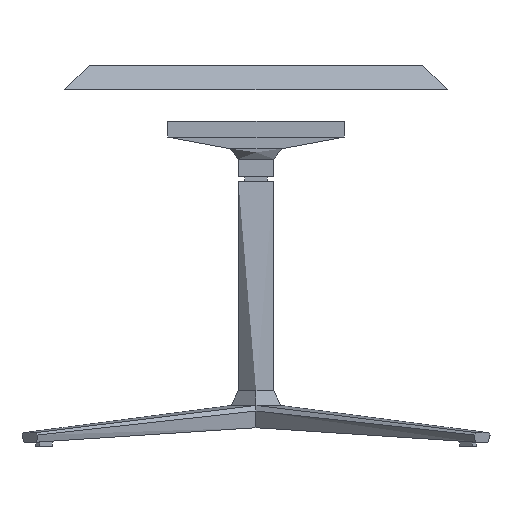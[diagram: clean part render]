
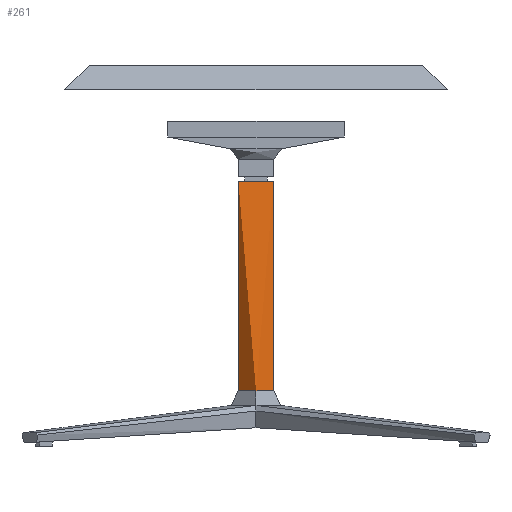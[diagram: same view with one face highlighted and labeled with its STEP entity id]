
A CAD part, left-side view. The second image highlights one B-rep face of the part: STEP entity #261.
In plain terms, the highlighted free-form (B-spline) face has degree [2, 1] with [5, 2] control points.
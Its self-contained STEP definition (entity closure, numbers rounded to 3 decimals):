
#38=(
BOUNDED_CURVE()
B_SPLINE_CURVE(2,(#12512,#12513,#12514),.UNSPECIFIED.,.F.,.F.)
B_SPLINE_CURVE_WITH_KNOTS((3,3),(0.,31.416),.UNSPECIFIED.)
CURVE()
GEOMETRIC_REPRESENTATION_ITEM()
RATIONAL_B_SPLINE_CURVE((1.,0.707,1.))
REPRESENTATION_ITEM('')
);
#39=(
BOUNDED_CURVE()
B_SPLINE_CURVE(2,(#12515,#12516,#12517),.UNSPECIFIED.,.F.,.F.)
B_SPLINE_CURVE_WITH_KNOTS((3,3),(31.416,62.832),
 .UNSPECIFIED.)
CURVE()
GEOMETRIC_REPRESENTATION_ITEM()
RATIONAL_B_SPLINE_CURVE((1.,0.707,1.))
REPRESENTATION_ITEM('')
);
#110=(
BOUNDED_CURVE()
B_SPLINE_CURVE(1,(#14656,#14657),.UNSPECIFIED.,.F.,.F.)
B_SPLINE_CURVE_WITH_KNOTS((2,2),(0.,177.),.UNSPECIFIED.)
CURVE()
GEOMETRIC_REPRESENTATION_ITEM()
RATIONAL_B_SPLINE_CURVE((1.,1.))
REPRESENTATION_ITEM('')
);
#111=(
BOUNDED_CURVE()
B_SPLINE_CURVE(2,(#14658,#14659,#14660,#14661,#14662),.UNSPECIFIED.,.F.,
 .F.)
B_SPLINE_CURVE_WITH_KNOTS((3,2,3),(-62.832,-31.416,
0.),.UNSPECIFIED.)
CURVE()
GEOMETRIC_REPRESENTATION_ITEM()
RATIONAL_B_SPLINE_CURVE((1.,0.707,1.,0.707,1.))
REPRESENTATION_ITEM('')
);
#170=(
BOUNDED_SURFACE()
B_SPLINE_SURFACE(2,1,((#12443,#12444),(#12445,#12446),(#12447,#12448),(#12449,
#12450),(#12451,#12452)),.UNSPECIFIED.,.F.,.F.,.F.)
B_SPLINE_SURFACE_WITH_KNOTS((3,2,3),(2,2),(-62.832,-31.416,
0.),(0.,177.),.UNSPECIFIED.)
GEOMETRIC_REPRESENTATION_ITEM()
RATIONAL_B_SPLINE_SURFACE(((1.,1.),(0.707,0.707),
(1.,1.),(0.707,0.707),(1.,1.)))
REPRESENTATION_ITEM('')
SURFACE()
);
#261=ADVANCED_FACE('',(#331),#170,.T.);
#331=FACE_OUTER_BOUND('',#402,.T.);
#402=EDGE_LOOP('',(#669,#670,#671,#672,#673));
#669=ORIENTED_EDGE('',*,*,#848,.T.);
#670=ORIENTED_EDGE('',*,*,#773,.T.);
#671=ORIENTED_EDGE('',*,*,#775,.T.);
#672=ORIENTED_EDGE('',*,*,#776,.T.);
#673=ORIENTED_EDGE('',*,*,#847,.F.);
#773=EDGE_CURVE('',#963,#964,#916,.T.);
#775=EDGE_CURVE('',#964,#1004,#38,.T.);
#776=EDGE_CURVE('',#1004,#1003,#39,.T.);
#847=EDGE_CURVE('',#1005,#1003,#110,.T.);
#848=EDGE_CURVE('',#1005,#963,#111,.T.);
#916=B_SPLINE_CURVE_WITH_KNOTS('',1,(#12501,#12502),.UNSPECIFIED.,.F.,.F.,
(2,2),(0.,177.),.UNSPECIFIED.);
#963=VERTEX_POINT('',#12453);
#964=VERTEX_POINT('',#12454);
#1003=VERTEX_POINT('',#12493);
#1004=VERTEX_POINT('',#12494);
#1005=VERTEX_POINT('',#12495);
#12443=CARTESIAN_POINT('',(0.,-20.,300.));
#12444=CARTESIAN_POINT('',(0.,-20.,63.));
#12445=CARTESIAN_POINT('',(-20.,-20.,300.));
#12446=CARTESIAN_POINT('',(-20.,-20.,63.));
#12447=CARTESIAN_POINT('',(-20.,0.,300.));
#12448=CARTESIAN_POINT('',(-20.,0.,63.));
#12449=CARTESIAN_POINT('',(-20.,20.,300.));
#12450=CARTESIAN_POINT('',(-20.,20.,63.));
#12451=CARTESIAN_POINT('',(0.,20.,300.));
#12452=CARTESIAN_POINT('',(0.,20.,63.));
#12453=CARTESIAN_POINT('',(0.,20.,300.));
#12454=CARTESIAN_POINT('',(0.,20.,63.));
#12493=CARTESIAN_POINT('',(0.,-20.,63.));
#12494=CARTESIAN_POINT('',(-20.,0.,63.));
#12495=CARTESIAN_POINT('',(0.,-20.,300.));
#12501=CARTESIAN_POINT('',(0.,20.,300.));
#12502=CARTESIAN_POINT('',(0.,20.,63.));
#12512=CARTESIAN_POINT('',(0.,20.,63.));
#12513=CARTESIAN_POINT('',(-20.,20.,63.));
#12514=CARTESIAN_POINT('',(-20.,0.,63.));
#12515=CARTESIAN_POINT('',(-20.,0.,63.));
#12516=CARTESIAN_POINT('',(-20.,-20.,63.));
#12517=CARTESIAN_POINT('',(0.,-20.,63.));
#14656=CARTESIAN_POINT('',(0.,-20.,300.));
#14657=CARTESIAN_POINT('',(0.,-20.,63.));
#14658=CARTESIAN_POINT('',(0.,-20.,300.));
#14659=CARTESIAN_POINT('',(-20.,-20.,300.));
#14660=CARTESIAN_POINT('',(-20.,0.,300.));
#14661=CARTESIAN_POINT('',(-20.,20.,300.));
#14662=CARTESIAN_POINT('',(0.,20.,300.));
